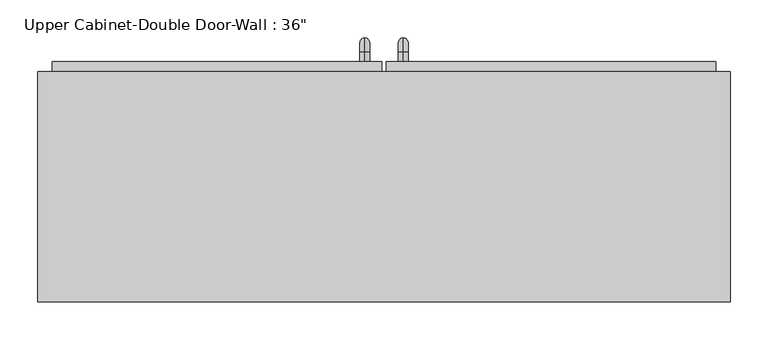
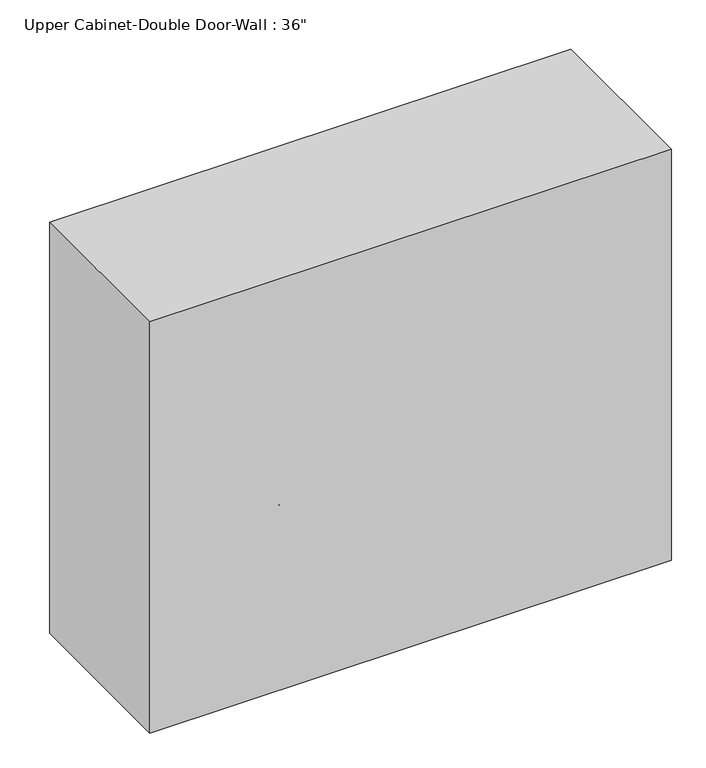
"""IFC4 building model written with IfcOpenShell, lengths in millimetres: furniture geometry."""

import ifcopenshell
import ifcopenshell.guid

model = None  # the IFC model being written
_history = None  # IfcOwnerHistory: only IFC2X3 demands one
_inside = {}  # id of a spatial element -> (the spatial element, [elements in it])
_under = {}  # id of a project, library or spatial element -> (it, [spatial elements below it])
_declared = {}  # id of a project -> (the project, [libraries it declares])
_typed = {}  # id of a type object -> (the type object, [elements of that type])
_made_of = {}  # id of a material, layer set ... -> (it, [elements and type objects made of it])


def new_model(schema):
    """Start an empty IFC model of exactly this schema.

    Asked for "IFC4X3", IfcOpenShell would pick the latest addendum, in which some entities
    have other attributes; the version numbers below select the first issue.
    IFC2X3 requires an IfcOwnerHistory on every rooted entity: one is made here for all.
    """
    global model, _history
    if schema == "IFC4X3":
        model = ifcopenshell.file(schema_version=(4, 3, 0, 0))
    else:
        model = ifcopenshell.file(schema=schema)
    _inside.clear()
    _under.clear()
    _declared.clear()
    _typed.clear()
    _made_of.clear()
    _history = None
    if model.schema == "IFC2X3":
        org = make("IfcOrganization", Name="unknown")
        user = make(
            "IfcPersonAndOrganization",
            ThePerson=make("IfcPerson", FamilyName="unknown"),
            TheOrganization=org,
        )
        app = make(
            "IfcApplication",
            ApplicationDeveloper=org,
            Version="unknown",
            ApplicationFullName="unknown",
            ApplicationIdentifier="unknown",
        )
        _history = make(
            "IfcOwnerHistory",
            OwningUser=user,
            OwningApplication=app,
            ChangeAction="ADDED",
            CreationDate=0,
        )
    return model


def make(cls, **values):
    """One entity of the class cls with the attributes given. An attribute that is None is left unset."""
    return model.create_entity(
        cls, **{name: value for name, value in values.items() if value is not None}
    )


def rooted(cls, **values):
    """An entity with a GlobalId (a new one), such as an element, a storey or a relation."""
    return make(cls, GlobalId=ifcopenshell.guid.new(), OwnerHistory=_history, **values)


def si_unit(unit_type, name, prefix=None):
    """IfcSIUnit, for example si_unit("LENGTHUNIT", "METRE", prefix="MILLI")."""
    return make("IfcSIUnit", UnitType=unit_type, Prefix=prefix, Name=name)


def assignment(units):
    """IfcUnitAssignment: the units of a project."""
    return None if units is None else make("IfcUnitAssignment", Units=units)


def point(xyz):
    """IfcCartesianPoint."""
    return None if xyz is None else make("IfcCartesianPoint", Coordinates=xyz)


def direction(xyz):
    """IfcDirection."""
    return None if xyz is None else make("IfcDirection", DirectionRatios=xyz)


def frame(location, z_axis=None, x_axis=None):
    """IfcAxis2Placement3D, a coordinate frame: its origin and axes. An axis left out is left unset."""
    return make(
        "IfcAxis2Placement3D",
        Location=point(location),
        Axis=direction(z_axis),
        RefDirection=direction(x_axis),
    )


def origin():
    """The frame at (0, 0, 0) with its axes left unset."""
    return frame((0.0, 0.0, 0.0))


def place(relative_to, where):
    """IfcLocalPlacement: puts the frame where relative to a parent placement (None: the world)."""
    return make(
        "IfcLocalPlacement", PlacementRelTo=relative_to, RelativePlacement=where
    )


def context(
    kind, dimensions, precision=None, world=None, true_north=None, identifier=None
):
    """IfcGeometricRepresentationContext, for example the 3D "Model" context."""
    return make(
        "IfcGeometricRepresentationContext",
        ContextIdentifier=identifier,
        ContextType=kind,
        CoordinateSpaceDimension=dimensions,
        Precision=precision,
        WorldCoordinateSystem=world,
        TrueNorth=true_north,
    )


def project(units=None, contexts=None):
    """IfcProject with its units and contexts."""
    return rooted(
        "IfcProject",
        Name="project",
        RepresentationContexts=contexts,
        UnitsInContext=assignment(units),
    )


def spatial(cls, under=None, at=None, **own):
    """A site, building, storey or space (cls), placed at a placement, below another one or the project."""
    s = rooted(cls, ObjectPlacement=at, **own)
    if under is not None:
        _under.setdefault(under.id(), (under, []))[1].append(s)
    return s


def polyline(points):
    """IfcPolyline through the points."""
    return make("IfcPolyline", Points=[point(p) for p in points])


def circle_curve(where, radius):
    """IfcCircle in the frame where."""
    return make("IfcCircle", Position=where, Radius=radius)


def ellipse_curve(where, semi_axis1, semi_axis2):
    """IfcEllipse in the frame where."""
    return make(
        "IfcEllipse", Position=where, SemiAxis1=semi_axis1, SemiAxis2=semi_axis2
    )


def trimmed(basis, trim1, trim2, sense, master):
    """IfcTrimmedCurve: the piece of a basis curve between two trims."""
    return make(
        "IfcTrimmedCurve",
        BasisCurve=basis,
        Trim1=trim1,
        Trim2=trim2,
        SenseAgreement=sense,
        MasterRepresentation=master,
    )


def outline(outer, holes=None, kind="AREA"):
    """IfcArbitraryClosedProfileDef: a profile drawn as a closed curve; with holes, ...WithVoids."""
    if holes is None:
        return make("IfcArbitraryClosedProfileDef", ProfileType=kind, OuterCurve=outer)
    return make(
        "IfcArbitraryProfileDefWithVoids",
        ProfileType=kind,
        OuterCurve=outer,
        InnerCurves=holes,
    )


def extrude(swept, where, along, depth):
    """IfcExtrudedAreaSolid: the profile swept, set in the frame where, extruded along a direction by depth."""
    return make(
        "IfcExtrudedAreaSolid",
        SweptArea=swept,
        Position=where,
        ExtrudedDirection=direction(along),
        Depth=depth,
    )


def faces_of(points, faces, orient=None, outer=None):
    """IfcFace entities. A face is a list of loops; a loop is a list of indices into points, from 0.

    orient and outer hold one flag for each loop. By default every Orientation is true, the
    first loop of a face is its IfcFaceOuterBound and the others are IfcFaceBound.
    """
    made = []
    for i, loops in enumerate(faces):
        bounds = []
        for j, loop in enumerate(loops):
            is_outer = j == 0 if outer is None else outer[i][j]
            bounds.append(
                make(
                    "IfcFaceOuterBound" if is_outer else "IfcFaceBound",
                    Bound=make("IfcPolyLoop", Polygon=[points[k] for k in loop]),
                    Orientation=True if orient is None else orient[i][j],
                )
            )
        made.append(make("IfcFace", Bounds=bounds))
    return made


def faceted_brep(points, faces, orient=None, outer=None, voids=None):
    """IfcFacetedBrep: a solid bounded by flat faces; with voids (closed shells), ...WithVoids."""
    shared = [point(p) for p in points]
    hull = make("IfcClosedShell", CfsFaces=faces_of(shared, faces, orient, outer))
    if voids is None:
        return make("IfcFacetedBrep", Outer=hull)
    return make(
        "IfcFacetedBrepWithVoids",
        Outer=hull,
        Voids=[
            make(cls, CfsFaces=faces_of(shared, fs, o, b)) for cls, fs, o, b in voids
        ],
    )


def shape(context_of_items, identifier, shape_type, items):
    """IfcShapeRepresentation: the items that make up one representation, for example the "Body"."""
    return make(
        "IfcShapeRepresentation",
        ContextOfItems=context_of_items,
        RepresentationIdentifier=identifier,
        RepresentationType=shape_type,
        Items=items,
    )


def source(mapping_origin, context_of_items, identifier, shape_type, items):
    """IfcRepresentationMap: a shape defined once, which mapped items show again and again."""
    return make(
        "IfcRepresentationMap",
        MappingOrigin=mapping_origin,
        MappedRepresentation=shape(context_of_items, identifier, shape_type, items),
    )


def transform(
    local_origin,
    x_axis=None,
    y_axis=None,
    z_axis=None,
    scale=None,
    scale2=None,
    scale3=None,
    uniform=True,
):
    """IfcCartesianTransformationOperator3D, or its non-uniform kind. x_axis, y_axis, z_axis: its Axis1, 2, 3."""
    if uniform:
        return make(
            "IfcCartesianTransformationOperator3D",
            Axis1=direction(x_axis),
            Axis2=direction(y_axis),
            LocalOrigin=point(local_origin),
            Scale=scale,
            Axis3=direction(z_axis),
        )
    return make(
        "IfcCartesianTransformationOperator3DnonUniform",
        Axis1=direction(x_axis),
        Axis2=direction(y_axis),
        LocalOrigin=point(local_origin),
        Scale=scale,
        Axis3=direction(z_axis),
        Scale2=scale2,
        Scale3=scale3,
    )


def mapped(mapping_source, mapping_target):
    """IfcMappedItem: shows the shape of a source again, moved by a transform."""
    return make(
        "IfcMappedItem", MappingSource=mapping_source, MappingTarget=mapping_target
    )


def made_of(thing, what):
    """Note that an element or type object is made of a material, layer set ...; save() writes the relation."""
    if what is not None:
        _made_of.setdefault(what.id(), (what, []))[1].append(thing)
    return thing


def element(
    cls,
    number,
    at=None,
    inside=None,
    cuts=None,
    type_object=None,
    material=None,
    context=None,
    identifier="Body",
    shape_type=None,
    held_by="IfcProductDefinitionShape",
    body=None,
    shapes=None,
    **own,
):
    """One element of the class cls, such as IfcWall. Its Tag is "e" and its number.

    at: its placement. inside: the storey or other place that contains it. cuts: it is an
    opening in that element (IfcRelVoidsElement). A single representation is given by context,
    identifier, shape_type and body (its items); several are given by shapes. held_by: the class
    of the entity that holds the representations. save() writes the other relations.
    """
    e = rooted(cls, Tag="e%d" % number, ObjectPlacement=at, **own)
    if body is not None:
        shapes = [shape(context, identifier, shape_type, body)]
    if shapes is not None:
        e.Representation = make(held_by, Representations=shapes)
    if inside is not None:
        _inside.setdefault(inside.id(), (inside, []))[1].append(e)
    if cuts is not None:
        rooted(
            "IfcRelVoidsElement", RelatingBuildingElement=cuts, RelatedOpeningElement=e
        )
    if type_object is not None:
        _typed.setdefault(type_object.id(), (type_object, []))[1].append(e)
    return made_of(e, material)


def aggregate(whole, parts):
    """IfcRelAggregates: a whole, such as a stair, and the parts it consists of."""
    return rooted("IfcRelAggregates", RelatingObject=whole, RelatedObjects=parts)


def save(model, path):
    """Write the relations noted so far, then the file.

    IfcRelAggregates (storeys below a building ...), IfcRelContainedInSpatialStructure (elements
    in a storey), IfcRelDefinesByType, IfcRelAssociatesMaterial and IfcRelDeclares: one each for
    every whole, place, type object, material and project.
    """
    for whole, parts in _under.values():
        aggregate(whole, parts)
    for where, things in _inside.values():
        rooted(
            "IfcRelContainedInSpatialStructure",
            RelatedElements=things,
            RelatingStructure=where,
        )
    for kind, things in _typed.values():
        rooted("IfcRelDefinesByType", RelatedObjects=things, RelatingType=kind)
    for what, things in _made_of.values():
        rooted("IfcRelAssociatesMaterial", RelatedObjects=things, RelatingMaterial=what)
    for by, libraries in _declared.values():
        rooted("IfcRelDeclares", RelatingContext=by, RelatedDefinitions=libraries)
    model.write(path)


def plane_surface(at):
    """IfcPlane: the flat surface through the origin of the frame at, square to its z axis."""
    return make("IfcPlane", Position=at)


def cylinder_surface(at, radius):
    """IfcCylindricalSurface: all points at the distance radius from the z axis of the frame at."""
    return make("IfcCylindricalSurface", Position=at, Radius=radius)


def revolved_surface(curve, axis_point, axis_direction):
    """IfcSurfaceOfRevolution: the curve turned about the line through axis_point along axis_direction."""
    return make(
        "IfcSurfaceOfRevolution",
        SweptCurve=make("IfcArbitraryOpenProfileDef", ProfileType="CURVE", Curve=curve),
        AxisPosition=make("IfcAxis1Placement", Location=point(axis_point), Axis=direction(axis_direction)),
    )


def advanced_brep(points, edges, surfaces, faces):
    """IfcAdvancedBrep: a solid bounded by faces that lie on surfaces and meet in shared edges.

    An edge is (start, end): straight between two places in points (the first is 0);
    or (start, end, curve); or (start, end, curve, False) where it runs against its curve.
    A face is (place in surfaces, loops), or (place, loops, False) where it looks against
    its surface's normal. A loop lists edges by number (the first is 1), with a minus sign
    where the edge is run from its end to its start. The first loop is the outer one.
    """
    corners = [point(p) for p in points]
    vertices = [make("IfcVertexPoint", VertexGeometry=c) for c in corners]
    made = []
    for start, end, *more in edges:
        made.append(
            make(
                "IfcEdgeCurve",
                EdgeStart=vertices[start],
                EdgeEnd=vertices[end],
                EdgeGeometry=more[0] if more else make("IfcPolyline", Points=[corners[start], corners[end]]),
                SameSense=more[1] if len(more) > 1 else True,
            )
        )
    hull = []
    for where, loops, *sense in faces:
        bounds = []
        for j, loop in enumerate(loops):
            ring = [make("IfcOrientedEdge", EdgeElement=made[abs(k) - 1], Orientation=k > 0) for k in loop]
            bounds.append(
                make(
                    "IfcFaceOuterBound" if j == 0 else "IfcFaceBound",
                    Bound=make("IfcEdgeLoop", EdgeList=ring),
                    Orientation=True,
                )
            )
        hull.append(make("IfcAdvancedFace", Bounds=bounds, FaceSurface=surfaces[where], SameSense=sense[0] if sense else True))
    return make("IfcAdvancedBrep", Outer=make("IfcClosedShell", CfsFaces=hull))


def furniture_c6a3367d(model_context):
    return source(origin(), model_context, "Body", "SolidModel", [
        faceted_brep([(-427.4288372, 57.15, 2133.6), (-427.4288372, 57.15, 1371.6), (486.9711628, 57.15, 1371.6), (486.9711628, 57.15, 2133.6), (-427.4288372, 361.95, 2133.6), (486.9711628, 361.95, 2133.6), (486.9711628, 361.95, 1371.6), (-427.4288372, 361.95, 1371.6), (-408.3788372, 361.95, 2114.55), (-408.3788372, 361.95, 1390.65), (467.9211628, 361.95, 1390.65), (467.9211628, 361.95, 2114.55), (467.9211628, 76.2, 2114.55), (-408.3788372, 76.2, 2114.55), (467.9211628, 76.2, 1390.65), (-408.3788372, 76.2, 1390.65)], [[[0, 1, 2, 3]], [[4, 5, 6, 7], [8, 9, 10, 11]], [[1, 0, 4, 7]], [[2, 1, 7, 6]], [[3, 2, 6, 5]], [[0, 3, 5, 4]], [[8, 11, 12, 13]], [[11, 10, 14, 12]], [[10, 9, 15, 14]], [[9, 8, 13, 15]], [[13, 12, 14, 15]]]),
        advanced_brep(
        [(55.1711628, 374.65, 1517.65), (55.1711628, 374.65, 1530.35), (55.1711628, 387.35, 1517.65), (55.1711628, 387.35, 1530.35), (55.1711628, 406.4, 1511.3), (55.1711628, 393.7, 1511.3), (55.1711628, 393.7, 1435.1), (55.1711628, 406.4, 1435.1), (55.1711628, 387.35, 1416.05), (55.1711628, 387.35, 1428.75), (55.1711628, 374.65, 1428.75), (55.1711628, 374.65, 1416.05)],
        [
            (0, 1, circle_curve(frame((55.1711628, 374.65, 1524.0), z_axis=(0.0, -1.0, 0.0), x_axis=(0.0, 0.0, -1.0)), 6.35)),
            (1, 0, circle_curve(frame((55.1711628, 374.65, 1524.0), z_axis=(0.0, -1.0, 0.0), x_axis=(0.0, 0.0, -1.0)), 6.35)),
            (0, 2),
            (2, 3, circle_curve(frame((55.1711628, 387.35, 1524.0), z_axis=(0.0, -1.0, 0.0), x_axis=(0.0, 0.0, -1.0)), 6.35)),
            (3, 1),
            (3, 2, circle_curve(frame((55.1711628, 387.35, 1524.0), z_axis=(0.0, -1.0, 0.0), x_axis=(0.0, 0.0, -1.0)), 6.35)),
            (4, 3, circle_curve(frame((55.1711628, 387.35, 1511.3), z_axis=(1.0, 0.0, 0.0), x_axis=(0.0, 0.0, 1.0)), 19.05)),
            (2, 5, circle_curve(frame((55.1711628, 387.35, 1511.3), z_axis=(-1.0, 0.0, 0.0), x_axis=(0.0, 0.0, 1.0)), 6.35)),
            (5, 4, circle_curve(frame((55.1711628, 400.05, 1511.3), z_axis=(0.0, 0.0, 1.0), x_axis=(0.0, -1.0, 0.0)), 6.35)),
            (4, 5, circle_curve(frame((55.1711628, 400.05, 1511.3), z_axis=(0.0, 0.0, 1.0), x_axis=(0.0, -1.0, 0.0)), 6.35)),
            (5, 6),
            (6, 7, circle_curve(frame((55.1711628, 400.05, 1435.1), z_axis=(0.0, 0.0, 1.0), x_axis=(0.0, -1.0, 0.0)), 6.35)),
            (7, 4),
            (7, 6, circle_curve(frame((55.1711628, 400.05, 1435.1), z_axis=(0.0, 0.0, 1.0), x_axis=(0.0, -1.0, 0.0)), 6.35)),
            (8, 7, circle_curve(frame((55.1711628, 387.35, 1435.1), z_axis=(1.0, 0.0, 0.0), x_axis=(0.0, 1.0, 0.0)), 19.05)),
            (6, 9, circle_curve(frame((55.1711628, 387.35, 1435.1), z_axis=(-1.0, 0.0, 0.0), x_axis=(0.0, 1.0, 0.0)), 6.35)),
            (9, 8, circle_curve(frame((55.1711628, 387.35, 1422.4), z_axis=(0.0, 1.0, 0.0), x_axis=(0.0, 0.0, 1.0)), 6.35)),
            (8, 9, circle_curve(frame((55.1711628, 387.35, 1422.4), z_axis=(0.0, 1.0, 0.0), x_axis=(0.0, 0.0, 1.0)), 6.35)),
            (10, 11, circle_curve(frame((55.1711628, 374.65, 1422.4), z_axis=(0.0, -1.0, 0.0), x_axis=(0.0, 0.0, 1.0)), 6.35)),
            (11, 10, circle_curve(frame((55.1711628, 374.65, 1422.4), z_axis=(0.0, -1.0, 0.0), x_axis=(0.0, 0.0, 1.0)), 6.35)),
            (9, 10),
            (11, 8),
        ],
        [
            plane_surface(frame((48.8211628, 374.65, 1524.0), z_axis=(0.0, -1.0, 0.0), x_axis=(0.0, 0.0, 1.0))),
            cylinder_surface(frame((55.1711628, 374.65, 1524.0), z_axis=(0.0, -1.0, 0.0), x_axis=(0.0, 0.0, -1.0)), 6.35),
            revolved_surface(trimmed(ellipse_curve(frame((55.1711628, 387.35, 1524.0), z_axis=(0.0, -1.0, 0.0), x_axis=(0.0, 0.0, -1.0)), 6.35, 6.35), [point((55.1711628, 387.35, 1517.65))], [point((55.1711628, 387.35, 1530.35))], True, "CARTESIAN"), (55.1711628, 387.35, 1511.3), (-1.0, 0.0, 0.0)),
            revolved_surface(trimmed(ellipse_curve(frame((55.1711628, 387.35, 1524.0), z_axis=(0.0, -1.0, 0.0), x_axis=(0.0, 0.0, -1.0)), 6.35, 6.35), [point((55.1711628, 387.35, 1530.35))], [point((55.1711628, 387.35, 1517.65))], True, "CARTESIAN"), (55.1711628, 387.35, 1511.3), (-1.0, 0.0, 0.0)),
            cylinder_surface(frame((55.1711628, 400.05, 1511.3), z_axis=(0.0, 0.0, 1.0), x_axis=(0.0, -1.0, 0.0)), 6.35),
            revolved_surface(trimmed(ellipse_curve(frame((55.1711628, 400.05, 1435.1), z_axis=(0.0, 0.0, 1.0), x_axis=(0.0, -1.0, 0.0)), 6.35, 6.35), [point((55.1711628, 393.7, 1435.1))], [point((55.1711628, 406.4, 1435.1))], True, "CARTESIAN"), (55.1711628, 387.35, 1435.1), (-1.0, 0.0, 0.0)),
            revolved_surface(trimmed(ellipse_curve(frame((55.1711628, 400.05, 1435.1), z_axis=(0.0, 0.0, 1.0), x_axis=(0.0, -1.0, 0.0)), 6.35, 6.35), [point((55.1711628, 406.4, 1435.1))], [point((55.1711628, 393.7, 1435.1))], True, "CARTESIAN"), (55.1711628, 387.35, 1435.1), (-1.0, 0.0, 0.0)),
            plane_surface(frame((48.8211628, 374.65, 1422.4), z_axis=(0.0, -1.0, 0.0), x_axis=(0.0, 0.0, -1.0))),
            cylinder_surface(frame((55.1711628, 387.35, 1422.4), z_axis=(0.0, 1.0, 0.0), x_axis=(0.0, 0.0, 1.0)), 6.35),
        ],
        [
            (0, [[1, 2]]),
            (1, [[-1, 3, 4, 5]]),
            (1, [[-2, -5, 6, -3]]),
            (2, [[7, -4, 8, 9]]),
            (3, [[-8, -6, -7, 10]]),
            (4, [[-9, 11, 12, 13]]),
            (4, [[-10, -13, 14, -11]]),
            (5, [[15, -12, 16, 17]]),
            (6, [[-16, -14, -15, 18]]),
            (7, [[19, 20]]),
            (8, [[-17, 21, -20, 22]]),
            (8, [[-18, -22, -19, -21]]),
        ],
    ),
        advanced_brep(
        [(4.3711628, 374.65, 1517.65), (4.3711628, 374.65, 1530.35), (4.3711628, 387.35, 1517.65), (4.3711628, 387.35, 1530.35), (4.3711628, 406.4, 1511.3), (4.3711628, 393.7, 1511.3), (4.3711628, 393.7, 1435.1), (4.3711628, 406.4, 1435.1), (4.3711628, 387.35, 1416.05), (4.3711628, 387.35, 1428.75), (4.3711628, 374.65, 1428.75), (4.3711628, 374.65, 1416.05)],
        [
            (0, 1, circle_curve(frame((4.3711628, 374.65, 1524.0), z_axis=(0.0, -1.0, 0.0), x_axis=(0.0, 0.0, 1.0)), 6.35)),
            (1, 0, circle_curve(frame((4.3711628, 374.65, 1524.0), z_axis=(0.0, -1.0, 0.0), x_axis=(0.0, 0.0, 1.0)), 6.35)),
            (0, 2),
            (2, 3, circle_curve(frame((4.3711628, 387.35, 1524.0), z_axis=(0.0, -1.0, 0.0), x_axis=(0.0, 0.0, 1.0)), 6.35)),
            (3, 1),
            (3, 2, circle_curve(frame((4.3711628, 387.35, 1524.0), z_axis=(0.0, -1.0, 0.0), x_axis=(0.0, 0.0, 1.0)), 6.35)),
            (4, 3, circle_curve(frame((4.3711628, 387.35, 1511.3), z_axis=(1.0, 0.0, 0.0), x_axis=(0.0, 0.0, 1.0)), 19.05)),
            (2, 5, circle_curve(frame((4.3711628, 387.35, 1511.3), z_axis=(-1.0, 0.0, 0.0), x_axis=(0.0, 0.0, 1.0)), 6.35)),
            (5, 4, circle_curve(frame((4.3711628, 400.05, 1511.3), z_axis=(0.0, 0.0, 1.0), x_axis=(0.0, 1.0, 0.0)), 6.35)),
            (4, 5, circle_curve(frame((4.3711628, 400.05, 1511.3), z_axis=(0.0, 0.0, 1.0), x_axis=(0.0, 1.0, 0.0)), 6.35)),
            (5, 6),
            (6, 7, circle_curve(frame((4.3711628, 400.05, 1435.1), z_axis=(0.0, 0.0, 1.0), x_axis=(0.0, 1.0, 0.0)), 6.35)),
            (7, 4),
            (7, 6, circle_curve(frame((4.3711628, 400.05, 1435.1), z_axis=(0.0, 0.0, 1.0), x_axis=(0.0, 1.0, 0.0)), 6.35)),
            (8, 7, circle_curve(frame((4.3711628, 387.35, 1435.1), z_axis=(1.0, 0.0, 0.0), x_axis=(0.0, 1.0, 0.0)), 19.05)),
            (6, 9, circle_curve(frame((4.3711628, 387.35, 1435.1), z_axis=(-1.0, 0.0, 0.0), x_axis=(0.0, 1.0, 0.0)), 6.35)),
            (9, 8, circle_curve(frame((4.3711628, 387.35, 1422.4), z_axis=(0.0, 1.0, 0.0), x_axis=(0.0, 0.0, -1.0)), 6.35)),
            (8, 9, circle_curve(frame((4.3711628, 387.35, 1422.4), z_axis=(0.0, 1.0, 0.0), x_axis=(0.0, 0.0, -1.0)), 6.35)),
            (10, 11, circle_curve(frame((4.3711628, 374.65, 1422.4), z_axis=(0.0, -1.0, 0.0), x_axis=(0.0, 0.0, -1.0)), 6.35)),
            (11, 10, circle_curve(frame((4.3711628, 374.65, 1422.4), z_axis=(0.0, -1.0, 0.0), x_axis=(0.0, 0.0, -1.0)), 6.35)),
            (9, 10),
            (11, 8),
        ],
        [
            plane_surface(frame((-1.9788372, 374.65, 1524.0), z_axis=(0.0, -1.0, 0.0), x_axis=(0.0, 0.0, 1.0))),
            cylinder_surface(frame((4.3711628, 374.65, 1524.0), z_axis=(0.0, -1.0, 0.0), x_axis=(0.0, 0.0, 1.0)), 6.35),
            revolved_surface(trimmed(ellipse_curve(frame((4.3711628, 387.35, 1524.0), z_axis=(0.0, -1.0, 0.0), x_axis=(0.0, 0.0, 1.0)), 6.35, 6.35), [point((4.3711628, 387.35, 1517.65))], [point((4.3711628, 387.35, 1530.35))], True, "CARTESIAN"), (4.3711628, 387.35, 1511.3), (-1.0, 0.0, 0.0)),
            revolved_surface(trimmed(ellipse_curve(frame((4.3711628, 387.35, 1524.0), z_axis=(0.0, -1.0, 0.0), x_axis=(0.0, 0.0, 1.0)), 6.35, 6.35), [point((4.3711628, 387.35, 1530.35))], [point((4.3711628, 387.35, 1517.65))], True, "CARTESIAN"), (4.3711628, 387.35, 1511.3), (-1.0, 0.0, 0.0)),
            cylinder_surface(frame((4.3711628, 400.05, 1511.3), z_axis=(0.0, 0.0, 1.0), x_axis=(0.0, 1.0, 0.0)), 6.35),
            revolved_surface(trimmed(ellipse_curve(frame((4.3711628, 400.05, 1435.1), z_axis=(0.0, 0.0, 1.0), x_axis=(0.0, 1.0, 0.0)), 6.35, 6.35), [point((4.3711628, 393.7, 1435.1))], [point((4.3711628, 406.4, 1435.1))], True, "CARTESIAN"), (4.3711628, 387.35, 1435.1), (-1.0, 0.0, 0.0)),
            revolved_surface(trimmed(ellipse_curve(frame((4.3711628, 400.05, 1435.1), z_axis=(0.0, 0.0, 1.0), x_axis=(0.0, 1.0, 0.0)), 6.35, 6.35), [point((4.3711628, 406.4, 1435.1))], [point((4.3711628, 393.7, 1435.1))], True, "CARTESIAN"), (4.3711628, 387.35, 1435.1), (-1.0, 0.0, 0.0)),
            plane_surface(frame((-1.9788372, 374.65, 1422.4), z_axis=(0.0, -1.0, 0.0), x_axis=(0.0, 0.0, -1.0))),
            cylinder_surface(frame((4.3711628, 387.35, 1422.4), z_axis=(0.0, 1.0, 0.0), x_axis=(0.0, 0.0, -1.0)), 6.35),
        ],
        [
            (0, [[1, 2]]),
            (1, [[-1, 3, 4, 5]]),
            (1, [[-2, -5, 6, -3]]),
            (2, [[7, -4, 8, 9]]),
            (3, [[-8, -6, -7, 10]]),
            (4, [[-9, 11, 12, 13]]),
            (4, [[-10, -13, 14, -11]]),
            (5, [[15, -12, 16, 17]]),
            (6, [[-16, -14, -15, 18]]),
            (7, [[19, 20]]),
            (8, [[-17, 21, -20, 22]]),
            (8, [[-18, -22, -19, -21]]),
        ],
    ),
        extrude(outline(polyline([(32.9461628, 374.65), (467.9211628, 374.65), (467.9211628, 342.9), (32.9461628, 342.9), (32.9461628, 374.65)])), frame((0.0, 0.0, 1390.65), z_axis=(0.0, 0.0, 1.0), x_axis=(1.0, 0.0, 0.0)), (0.0, 0.0, 1.0), 723.9),
        extrude(outline(polyline([(-408.3788372, 374.65), (26.5961628, 374.65), (26.5961628, 342.9), (-408.3788372, 342.9), (-408.3788372, 374.65)])), frame((0.0, 0.0, 1390.65), z_axis=(0.0, 0.0, 1.0), x_axis=(1.0, 0.0, 0.0)), (0.0, 0.0, 1.0), 723.9),
    ])


if __name__ == "__main__":
    model = new_model("IFC4")
    model_context = context("Model", 3, world=origin())
    ifc_project = project(units=[si_unit("LENGTHUNIT", "METRE", prefix="MILLI")], contexts=[model_context])
    site = spatial("IfcSite", under=ifc_project)
    building = spatial("IfcBuilding", under=site)
    placement = place(None, origin())
    furniture_shape = furniture_c6a3367d(model_context)
    element("IfcFurniture", 1, ObjectType="Upper Cabinet-Double Door-Wall : 36\"", at=placement, inside=building, context=model_context, shape_type="MappedRepresentation", body=[
        mapped(furniture_shape, transform((0.0, 0.0, 0.0), x_axis=(1.0, 0.0, 0.0), y_axis=(0.0, 1.0, 0.0), z_axis=(0.0, 0.0, 1.0))),
    ])
    save(model, "model.ifc")
